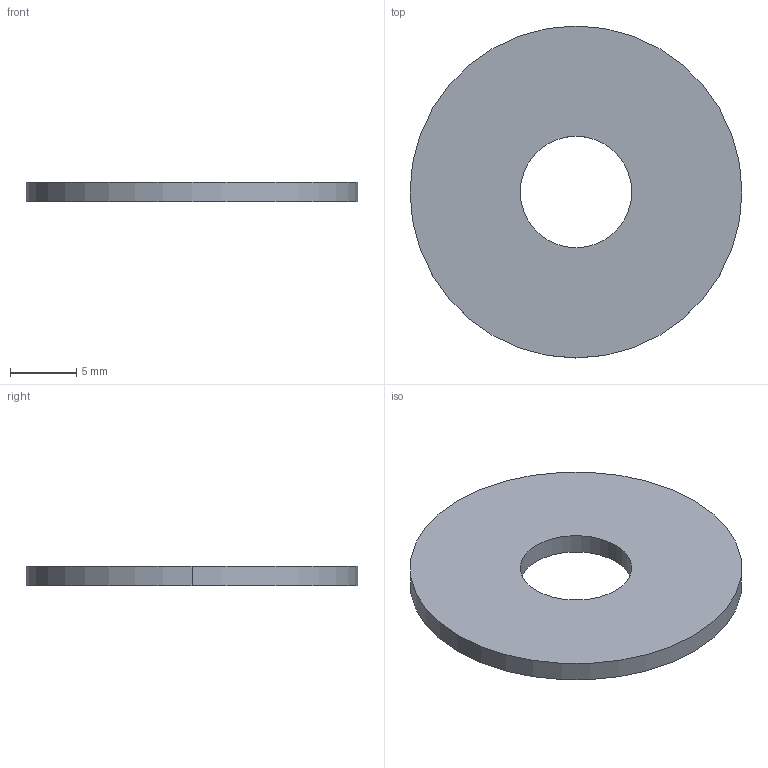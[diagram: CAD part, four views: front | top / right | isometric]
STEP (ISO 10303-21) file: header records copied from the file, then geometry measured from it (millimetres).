
FILE_DESCRIPTION (( 'STEP AP203' ), '1' );
FILE_NAME ('P0333.080-025-A4.step', '2018-12-17T19:08:35', ( '' ), ( '' ), 'SwSTEP 2.0', 'SolidWorks 2017', '' );
FILE_SCHEMA (( 'CONFIG_CONTROL_DESIGN' ));
Length unit declared in the file: millimetre
Products named in the file (1): P0333.080-025-A4
Bounding box: 25 x 25 x 1.5 mm (x, y, z)
Volume: 653.2 mm3; surface area: 1028.3 mm2
Topology: 1 solids, 1 shells, 6 faces, 12 edges, 8 vertices
Faces by surface type: cylinder 4, plane 2
Entity records: 245 total; most frequent: DIRECTION 34, CARTESIAN_POINT 27, ORIENTED_EDGE 24, AXIS2_PLACEMENT_3D 15, EDGE_CURVE 12, CIRCLE 8, EDGE_LOOP 8, PERSON_AND_ORGANIZATION 8
